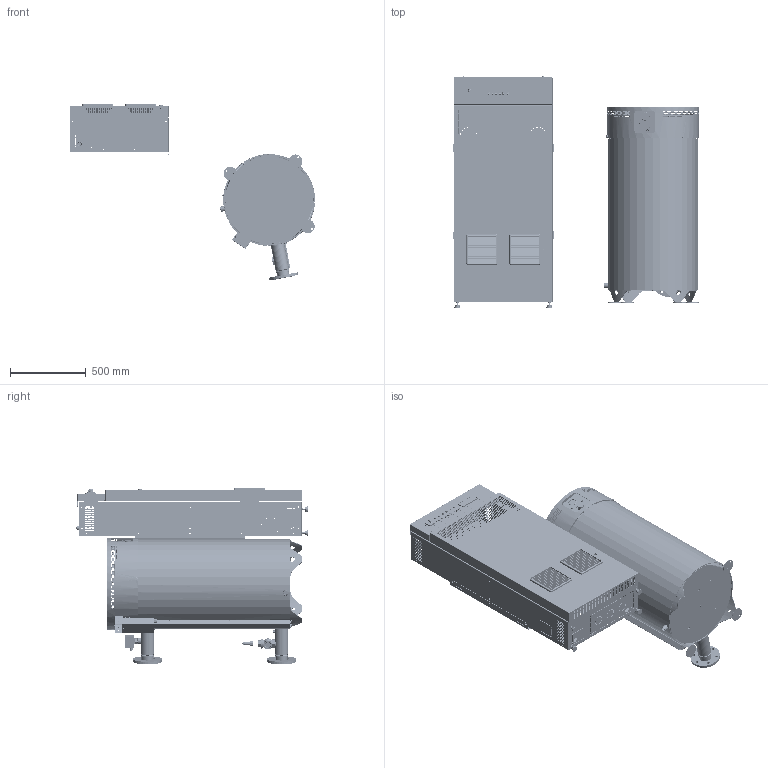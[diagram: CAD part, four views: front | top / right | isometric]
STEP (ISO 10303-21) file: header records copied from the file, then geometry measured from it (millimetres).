
FILE_DESCRIPTION(/* description */ (''),/* implementation_level */ '2;1');
FILE_NAME(/* name */ '\\fs01.nvsk.local\FileServer\!!!Обмен файлами\Маркелова Л.В\Задача 144\375-500\Электрокотёл 375-500 кВт_Shrinkwrap_1.stp',/* time_stamp */ '2022-07-11T12:18:39+03:00',/* author */ ('nvsk-constr2'),/* organization */ (''),/* preprocessor_version */ 'ST-DEVELOPER v18.1',/* originating_system */ 'Autodesk Inventor 2021',/* authorisation */ '');
FILE_SCHEMA (('CONFIG_CONTROL_DESIGN'));
Products named in the file (1): Электрокотёл 
375-500 кВт_Shrinkwrap_1
Bounding box: 1620.72 x 1524 x 1162.79 mm (x, y, z)
Volume: 767491.5 mm3; surface area: 18137738.9 mm2
Topology: 2 solids, 80 shells, 5192 faces, 17248 edges, 11872 vertices
Faces by surface type: plane 2762, cylinder 2004, cone 194, torus 135, bspline 61, sphere 36
Full cylindrical faces by diameter (mm): 2 x1, 3.5 x40, 4 x6, 4.317 x2, 4.5 x3, 5 x4, 5.063 x1, 6 x18, 6.5 x1, 7 x20, 7.119 x1, 7.834 x2, 8 x8, 8.5 x5, 8.8 x2, 9 x13, 9.188 x3, 9.936 x1, 10 x18, 11 x14, 11.433 x2, 11.5 x16, 11.63 x1, 12 x2, 13 x6, 13.5 x10, 13.562 x1, 14 x12, 14.367 x2, 14.778 x2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
Entity records: 212728 total; most frequent: CARTESIAN_POINT 50636, DIRECTION 32520, ORIENTED_EDGE 31042, EDGE_CURVE 17250, VERTEX_POINT 11876, AXIS2_PLACEMENT_3D 11079, LINE 10362, VECTOR 10362
